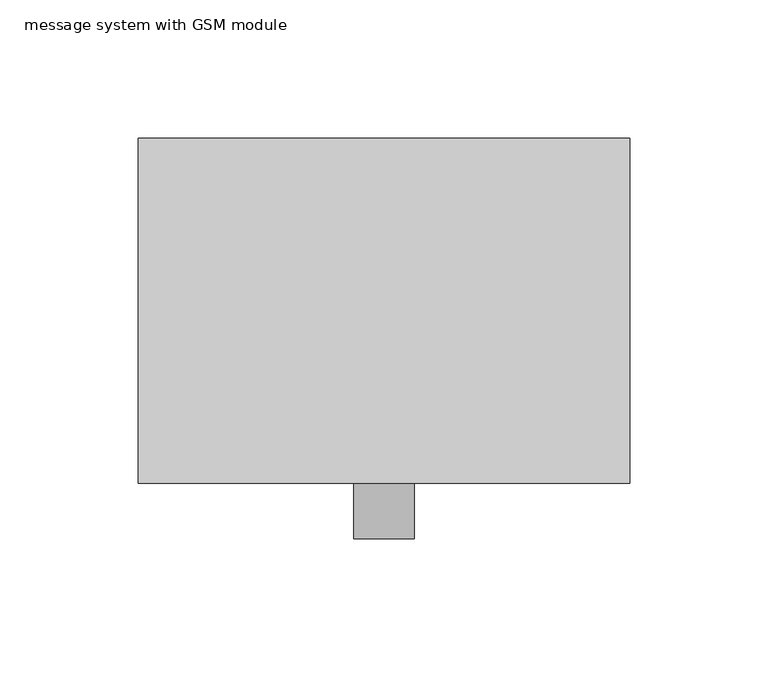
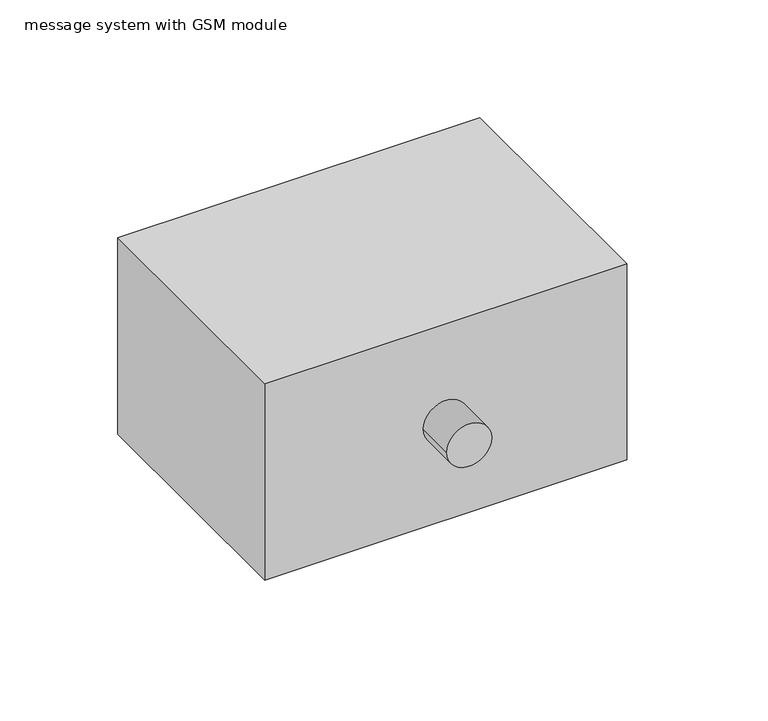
"""IFC4 building model written with IfcOpenShell, lengths in millimetres: proxy geometry, CD_WPB_signalling device_ACO : message system with GSM module."""

from ifc_helpers import new_model, si_unit, frame, origin, place, context, project, spatial, circle_curve, source, transform, mapped, element, save
from ifc_brep_helpers import plane_surface, cylinder_surface, advanced_brep


def message_system_with_gsm_module_9e46706c(model_context):
    return source(origin(), model_context, "Body", "AdvancedBrep", [
        advanced_brep(
        [(-11.0, -82.5, 51.0), (11.0, -82.5, 51.0), (11.0, -62.5, 51.0), (-11.0, -62.5, 51.0), (89.0, 62.5, 102.0), (-89.0, 62.5, 102.0), (-89.0, -62.5, 102.0), (89.0, -62.5, 102.0), (89.0, 62.5, 0.0), (89.0, -62.5, 0.0), (-89.0, -62.5, 0.0), (-89.0, 62.5, 0.0)],
        [
            (0, 1, circle_curve(frame((0.0, -82.5, 51.0), z_axis=(0.0, -1.0, 0.0), x_axis=(1.0, 0.0, 0.0)), 11.0)),
            (1, 0, circle_curve(frame((0.0, -82.5, 51.0), z_axis=(0.0, -1.0, 0.0), x_axis=(1.0, 0.0, 0.0)), 11.0)),
            (1, 2),
            (2, 3, circle_curve(frame((0.0, -62.5, 51.0), z_axis=(0.0, -1.0, 0.0), x_axis=(1.0, 0.0, 0.0)), 11.0)),
            (3, 0),
            (3, 2, circle_curve(frame((0.0, -62.5, 51.0), z_axis=(0.0, -1.0, 0.0), x_axis=(1.0, 0.0, 0.0)), 11.0)),
            (4, 5),
            (5, 6),
            (6, 7),
            (7, 4),
            (8, 9),
            (9, 10),
            (10, 11),
            (11, 8),
            (4, 8),
            (11, 5),
            (10, 6),
            (9, 7),
        ],
        [
            plane_surface(frame((0.0, -82.5, 51.0), z_axis=(0.0, -1.0, 0.0), x_axis=(0.0, 0.0, 1.0))),
            cylinder_surface(frame((0.0, -62.5, 51.0), z_axis=(0.0, 1.0, 0.0), x_axis=(1.0, 0.0, 0.0)), 11.0),
            plane_surface(frame((-89.0, 62.5, 102.0), z_axis=(0.0, 0.0, 1.0), x_axis=(-1.0, 0.0, 0.0))),
            plane_surface(frame((-89.0, 62.5, 0.0), z_axis=(0.0, 0.0, -1.0), x_axis=(1.0, 0.0, 0.0))),
            plane_surface(frame((89.0, 62.5, 102.0), z_axis=(0.0, 1.0, 0.0), x_axis=(0.0, 0.0, -1.0))),
            plane_surface(frame((-89.0, 62.5, 102.0), z_axis=(-1.0, 0.0, 0.0), x_axis=(0.0, 0.0, -1.0))),
            plane_surface(frame((-89.0, -62.5, 102.0), z_axis=(0.0, -1.0, 0.0), x_axis=(0.0, 0.0, -1.0))),
            plane_surface(frame((89.0, -62.5, 102.0), z_axis=(1.0, 0.0, 0.0), x_axis=(0.0, 0.0, -1.0))),
        ],
        [
            (0, [[1, 2]]),
            (1, [[-2, 3, 4, 5]]),
            (1, [[-1, -5, 6, -3]]),
            (2, [[7, 8, 9, 10]]),
            (3, [[11, 12, 13, 14]]),
            (4, [[-7, 15, -14, 16]]),
            (5, [[-8, -16, -13, 17]]),
            (6, [[-9, -17, -12, 18], [-4, -6]]),
            (7, [[-10, -18, -11, -15]]),
        ],
    ),
    ])


if __name__ == "__main__":
    model = new_model("IFC4")
    model_context = context("Model", 3, world=origin())
    ifc_project = project(units=[si_unit("LENGTHUNIT", "METRE", prefix="MILLI")], contexts=[model_context])
    site = spatial("IfcSite", under=ifc_project)
    building = spatial("IfcBuilding", under=site)
    placement = place(None, origin())
    message_system_with_gsm_module_shape = message_system_with_gsm_module_9e46706c(model_context)
    element("IfcBuildingElementProxy", 1, Name="CD_WPB_signalling device_ACO : message system with GSM module", ObjectType="CD_WPB_signalling device_ACO : message system with GSM module", at=placement, inside=building, context=model_context, shape_type="MappedRepresentation", body=[
        mapped(message_system_with_gsm_module_shape, transform((0.0, 0.0, 0.0), x_axis=(1.0, 0.0, 0.0), y_axis=(0.0, 1.0, 0.0), z_axis=(0.0, 0.0, 1.0))),
    ])
    save(model, "model.ifc")
